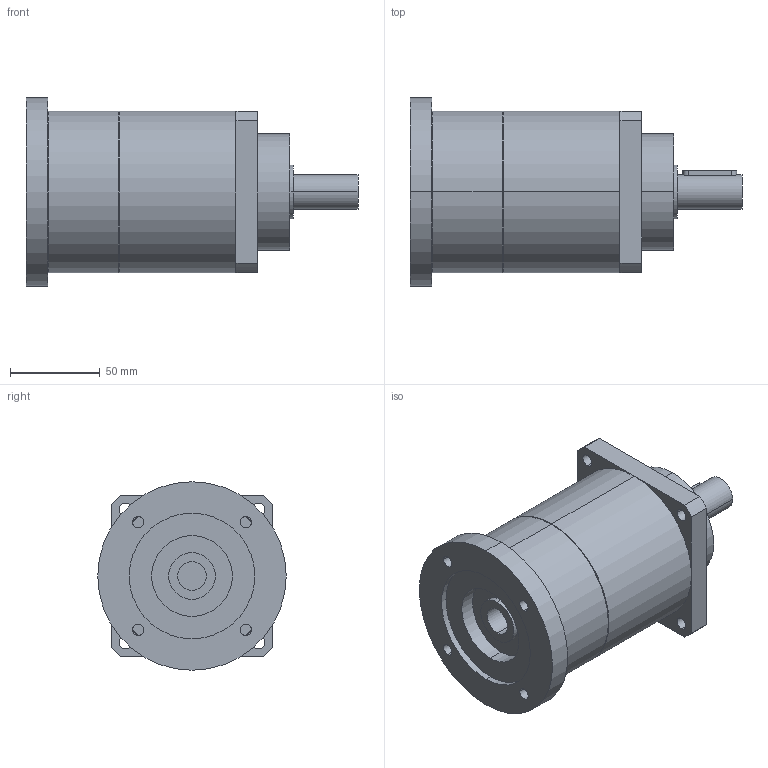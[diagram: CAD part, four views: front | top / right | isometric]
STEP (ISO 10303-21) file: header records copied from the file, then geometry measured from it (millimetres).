
FILE_DESCRIPTION(('CoCreate Modeling STEP Export'),'2;1');
FILE_NAME('GPT90_ig-9-12-16-20-25-28-35-40-50-70-100_19_B5T_15.87_P04.stp','2015-02-04T11:31:05',(''),(''),'CoCreate Modeling STEP processor for AP214 (Solid Model)','CoCreate Modeling 16.00C 25-Feb-2009 (C) Parametric Technology GmbH','');
FILE_SCHEMA(('AUTOMOTIVE_DESIGN { 1 0 10303 214 1 1 1 1 }'));
Length unit declared in the file: millimetre
Products named in the file (2): GPT90_ig-9-12-16-20-25-28-35-40-50-70-100_19_B5T_15.87_P04
Assembly tree (1 placements, depth 2):
  GPT90_ig-9-12-16-20-25-28-35-40-50-70-100_19_B5T_15.87_P04
    GPT90_ig-9-12-16-20-25-28-35-40-50-70-100_19_B5T_15.87_P04
Bounding box: 185 x 105 x 105 mm (x, y, z)
Volume: 903851.9 mm3; surface area: 71073.2 mm2
Topology: 1 solids, 1 shells, 75 faces, 205 edges, 138 vertices
Faces by surface type: cylinder 44, plane 27, cone 4
Entity records: 2477 total; most frequent: CARTESIAN_POINT 717, ORIENTED_EDGE 410, DIRECTION 294, EDGE_CURVE 205, VERTEX_POINT 138, AXIS2_PLACEMENT_3D 112, EDGE_LOOP 97, FACE_OUTER_BOUND 75
